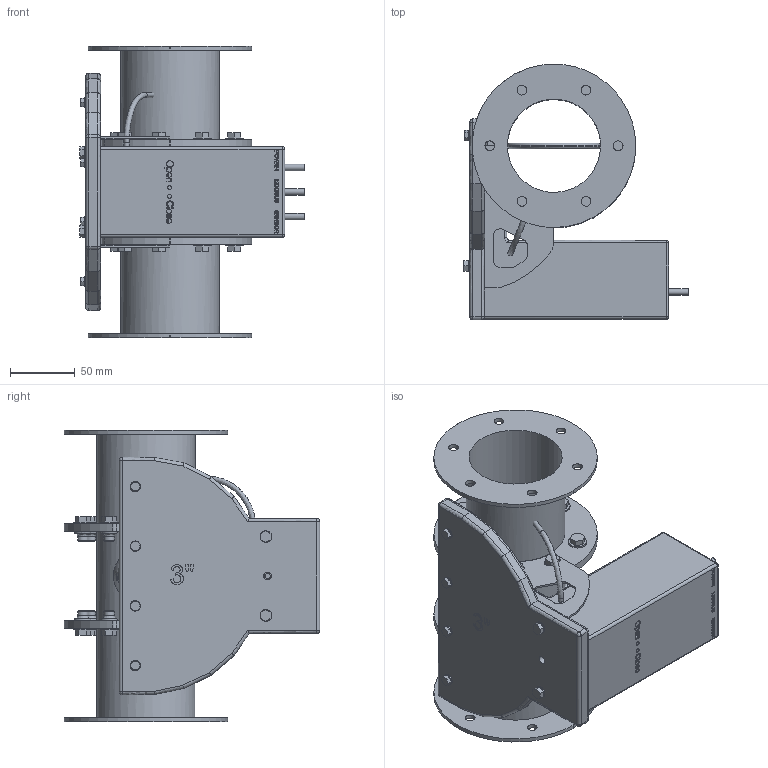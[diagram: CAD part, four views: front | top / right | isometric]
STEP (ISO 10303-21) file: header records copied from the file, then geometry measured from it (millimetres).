
FILE_DESCRIPTION( ('This file contains a STEP AP42 implementation' ,'as created by ZW3D STEP Interface translator.') ,'2;1' );
FILE_NAME( '3D Model-03_2M0 Butterfly Body with drive.stp' ,'22 2 8.112111', (''), ('ZWCAD Software Co.'), 'Version 1.0', 'ZW3D to STEP translator', '' );
FILE_SCHEMA(('AUTOMOTIVE_DESIGN'));
Length unit declared in the file: millimetre
Products named in the file (1): 0
Bounding box: 173.3 x 197.51 x 225 mm (x, y, z)
Volume: 1192681.8 mm3; surface area: 311559.1 mm2
Topology: 24 solids, 24 shells, 1070 faces, 2553 edges, 1708 vertices
Faces by surface type: bspline 1070
Entity records: 40885 total; most frequent: CARTESIAN_POINT 24149, ORIENTED_EDGE 5020, EDGE_CURVE 2510, B_SPLINE_CURVE_WITH_KNOTS 1950, VERTEX_POINT 1630, EDGE_LOOP 1284, FACE_OUTER_BOUND 1070, ADVANCED_FACE 1070
